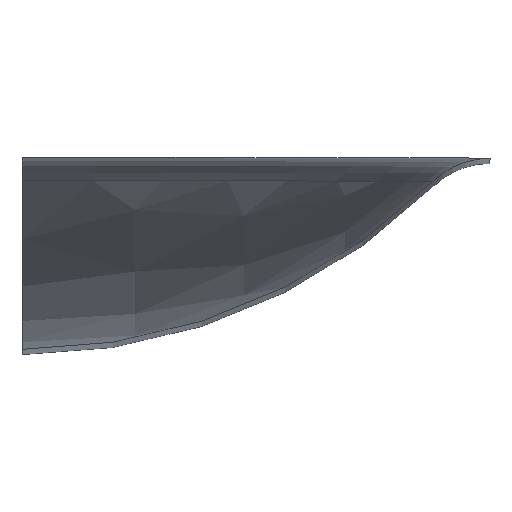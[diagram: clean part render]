
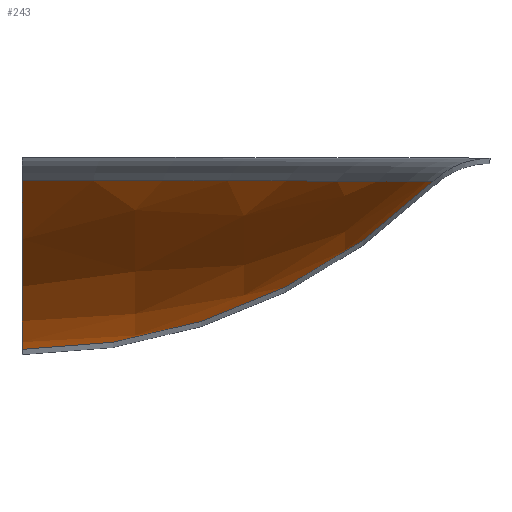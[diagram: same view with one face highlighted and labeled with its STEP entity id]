
A CAD part, top view. The second image highlights one B-rep face of the part: STEP entity #243.
In plain terms, the highlighted spherical face has radius 14.83 mm.
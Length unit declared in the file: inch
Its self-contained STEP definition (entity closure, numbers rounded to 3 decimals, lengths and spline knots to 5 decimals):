
#1 = DIRECTION ( 'NONE',  ( 0., 0., 1. ) ) ;
#6 = CIRCLE ( 'NONE', #27, 0.58384 ) ;
#17 = CARTESIAN_POINT ( 'NONE',  ( -0.2155, 0.39384, 1.5 ) ) ;
#25 = CIRCLE ( 'NONE', #172, 0.40865 ) ;
#27 = AXIS2_PLACEMENT_3D ( 'NONE', #17, #61, #1 ) ;
#61 = DIRECTION ( 'NONE',  ( -1., 0., 0. ) ) ;
#64 = SPHERICAL_SURFACE ( 'NONE', #103, 0.58384 ) ;
#65 = DIRECTION ( 'NONE',  ( -1., 0., 0. ) ) ;
#69 = ORIENTED_EDGE ( 'NONE', *, *, #128, .F. ) ;
#70 = ORIENTED_EDGE ( 'NONE', *, *, #210, .F. ) ;
#86 = DIRECTION ( 'NONE',  ( 0., 0., 1. ) ) ;
#87 = VERTEX_POINT ( 'NONE', #265 ) ;
#103 = AXIS2_PLACEMENT_3D ( 'NONE', #247, #252, #174 ) ;
#107 = EDGE_LOOP ( 'NONE', ( #70, #183, #69 ) ) ;
#112 = VERTEX_POINT ( 'NONE', #245 ) ;
#120 = CIRCLE ( 'NONE', #284, 0.58384 ) ;
#128 = EDGE_CURVE ( 'NONE', #168, #112, #6, .T. ) ;
#155 = FACE_OUTER_BOUND ( 'NONE', #107, .T. ) ;
#168 = VERTEX_POINT ( 'NONE', #171 ) ;
#171 = CARTESIAN_POINT ( 'NONE',  ( -0.2155, -0.19, 1.5 ) ) ;
#172 = AXIS2_PLACEMENT_3D ( 'NONE', #266, #176, #86 ) ;
#174 = DIRECTION ( 'NONE',  ( 0., 0., -1. ) ) ;
#176 = DIRECTION ( 'NONE',  ( 0., -1., 0. ) ) ;
#181 = DIRECTION ( 'NONE',  ( 0., 0., -1. ) ) ;
#183 = ORIENTED_EDGE ( 'NONE', *, *, #234, .T. ) ;
#205 = CARTESIAN_POINT ( 'NONE',  ( -0.2155, 0.39384, 1.5 ) ) ;
#210 = EDGE_CURVE ( 'NONE', #87, #168, #120, .T. ) ;
#234 = EDGE_CURVE ( 'NONE', #87, #112, #25, .T. ) ;
#243 = ADVANCED_FACE ( 'NONE', ( #155 ), #64, .T. ) ;
#245 = CARTESIAN_POINT ( 'NONE',  ( -0.2155, -0.02315, 1.90865 ) ) ;
#247 = CARTESIAN_POINT ( 'NONE',  ( -0.2155, 0.39384, 1.5 ) ) ;
#252 = DIRECTION ( 'NONE',  ( -1., 0., 0. ) ) ;
#265 = CARTESIAN_POINT ( 'NONE',  ( 0.19315, -0.02315, 1.5 ) ) ;
#266 = CARTESIAN_POINT ( 'NONE',  ( -0.2155, -0.02315, 1.5 ) ) ;
#284 = AXIS2_PLACEMENT_3D ( 'NONE', #205, #181, #65 ) ;
